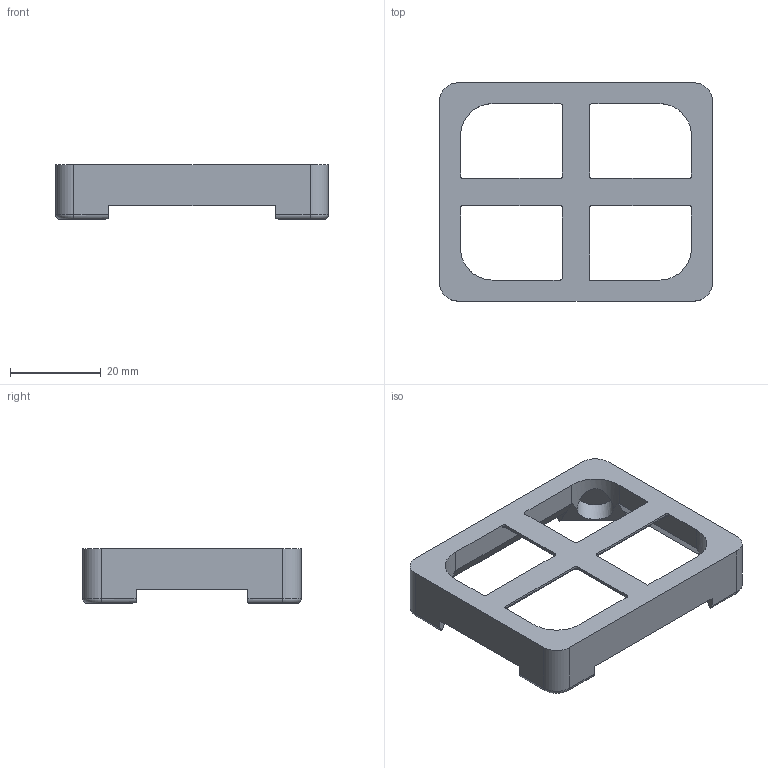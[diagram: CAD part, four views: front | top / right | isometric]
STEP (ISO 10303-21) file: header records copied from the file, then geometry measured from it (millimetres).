
FILE_DESCRIPTION(/* description */ (''),/* implementation_level */ '2;1');
FILE_NAME(/* name */ 'Grundplatte V10 Gamma system.stp',/* time_stamp */ '2025-04-01T15:18:55+02:00',/* author */ ('dw'),/* organization */ (''),/* preprocessor_version */ 'ST-DEVELOPER v20',/* originating_system */ 'Autodesk Inventor 2025',/* authorisation */ '');
FILE_SCHEMA (('AUTOMOTIVE_DESIGN { 1 0 10303 214 3 1 1 }'));
Length unit declared in the file: millimetre
Products named in the file (2): Grundplatte V10 ; Grundplatte V8 
Assembly tree (1 placements, depth 2):
  Grundplatte V10 
    Grundplatte V8 
Bounding box: 60 x 48 x 12 mm (x, y, z)
Volume: 8702 mm3; surface area: 6779.8 mm2
Topology: 1 solids, 1 shells, 113 faces, 324 edges, 223 vertices
Faces by surface type: plane 49, cylinder 47, torus 15, bspline 2
Full cylindrical faces by diameter (mm): 8 x4
Entity records: 3982 total; most frequent: CARTESIAN_POINT 861, DIRECTION 662, ORIENTED_EDGE 636, EDGE_CURVE 318, AXIS2_PLACEMENT_3D 246, VERTEX_POINT 203, LINE 170, VECTOR 170
